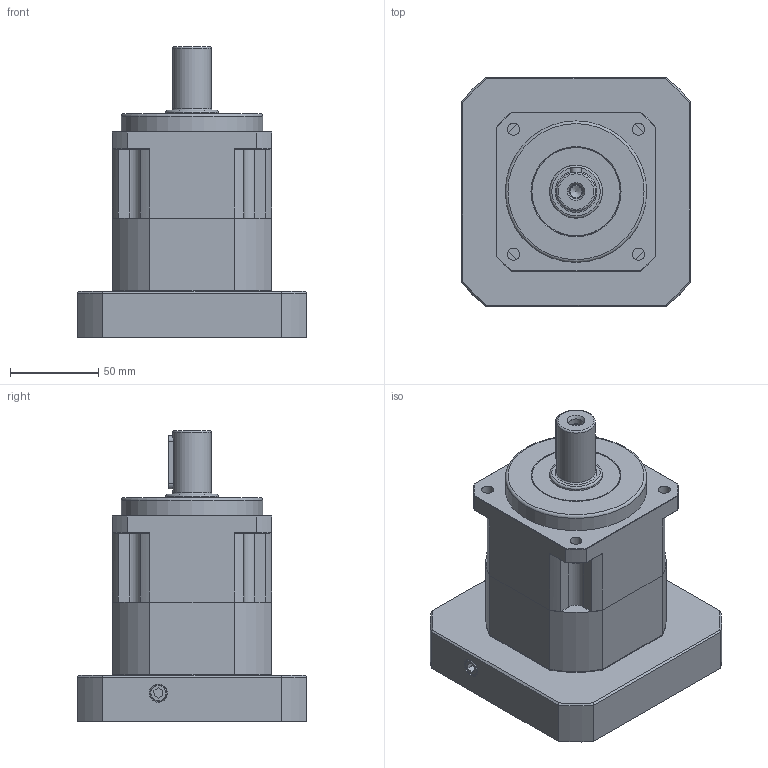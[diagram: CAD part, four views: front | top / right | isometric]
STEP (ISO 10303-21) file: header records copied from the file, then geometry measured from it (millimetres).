
FILE_DESCRIPTION((''),'2;1');
FILE_NAME('C:\Work\감속기 카다로그 도면\ATG Reducer(홈페이지)\KSB\추가수정\KSB-90-1 (S24).stp','2014-06-24T11:05:21',('young'),(''),'Autodesk Inventor 2012','Autodesk Inventor 2012','');
FILE_SCHEMA(('AUTOMOTIVE_DESIGN { 1 0 10303 214 1 1 1 1 }'));
Length unit declared in the file: millimetre
Products named in the file (1): KSB-90-1 (S24)
Bounding box: 130.01 x 130.01 x 164.5 mm (x, y, z)
Volume: 790123.8 mm3; surface area: 168895.8 mm2
Topology: 16 solids, 16 shells, 516 faces, 1232 edges, 790 vertices
Faces by surface type: plane 277, cylinder 145, cone 68, torus 15, bspline 11
Full cylindrical faces by diameter (mm): 4.2 x4, 4.5 x4, 5 x4, 5.1 x1, 6 x5, 6.5 x1, 6.8 x13, 8 x5, 8.433 x2, 9.5 x2, 10 x5, 22 x1, 24.2 x1, 24.9 x1, 28.2 x1, 28.8 x1, 29.8 x1, 30 x2, 39 x1, 45 x2, 50 x2, 68 x1, 78 x2, 80 x1, 110 x1
Entity records: 15434 total; most frequent: CARTESIAN_POINT 3786, DIRECTION 2443, ORIENTED_EDGE 2166, EDGE_CURVE 1083, AXIS2_PLACEMENT_3D 922, VERTEX_POINT 760, EDGE_LOOP 717, VECTOR 599
